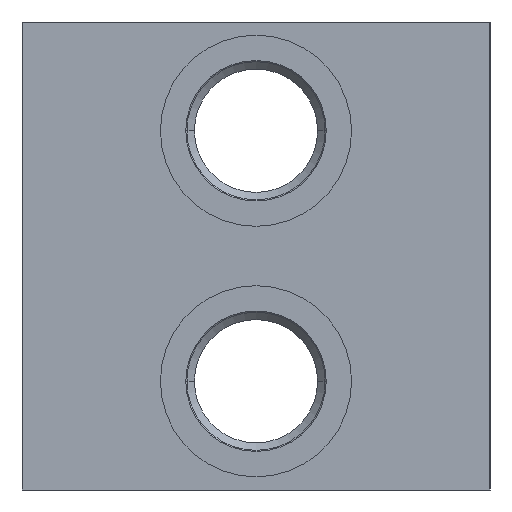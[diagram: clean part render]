
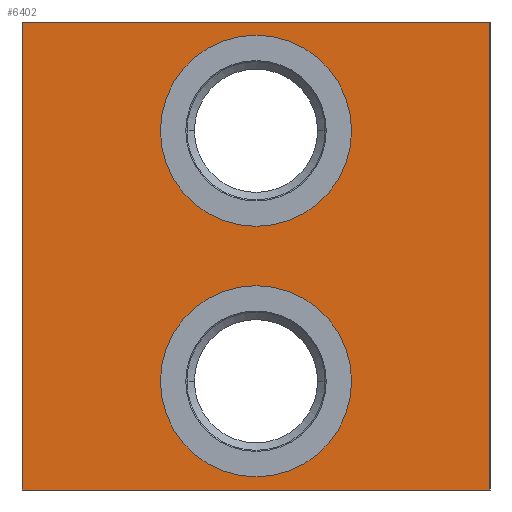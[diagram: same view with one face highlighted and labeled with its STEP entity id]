
A CAD part, left-side view. The second image highlights one B-rep face of the part: STEP entity #6402.
In plain terms, the highlighted planar face has unit normal (-1, 0, 0).
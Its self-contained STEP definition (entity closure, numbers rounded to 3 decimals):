
#30=DIRECTION('',(0.,-1.,0.));
#31=VECTOR('',#30,71.);
#32=CARTESIAN_POINT('',(0.,71.,0.));
#33=LINE('',#32,#31);
#211=DIRECTION('',(0.,0.,-1.));
#212=VECTOR('',#211,71.);
#213=CARTESIAN_POINT('',(0.,0.,0.));
#214=LINE('',#213,#212);
#1408=DIRECTION('',(0.,0.,-1.));
#1409=VECTOR('',#1408,71.);
#1410=CARTESIAN_POINT('',(0.,71.,0.));
#1411=LINE('',#1410,#1409);
#1415=CARTESIAN_POINT('',(0.,35.5,-54.5));
#1416=DIRECTION('',(1.,0.,0.));
#1417=DIRECTION('',(0.,-1.,0.));
#1418=AXIS2_PLACEMENT_3D('',#1415,#1416,#1417);
#1423=CARTESIAN_POINT('',(0.,35.5,-54.5));
#1424=DIRECTION('',(1.,0.,0.));
#1425=DIRECTION('',(0.,1.,0.));
#1426=AXIS2_PLACEMENT_3D('',#1423,#1424,#1425);
#1431=CARTESIAN_POINT('',(0.,35.5,-16.5));
#1432=DIRECTION('',(1.,0.,0.));
#1433=DIRECTION('',(0.,-1.,0.));
#1434=AXIS2_PLACEMENT_3D('',#1431,#1432,#1433);
#1439=CARTESIAN_POINT('',(0.,35.5,-16.5));
#1440=DIRECTION('',(1.,0.,0.));
#1441=DIRECTION('',(0.,1.,0.));
#1442=AXIS2_PLACEMENT_3D('',#1439,#1440,#1441);
#1468=DIRECTION('',(0.,-1.,0.));
#1469=VECTOR('',#1468,71.);
#1470=CARTESIAN_POINT('',(0.,71.,-71.));
#1471=LINE('',#1470,#1469);
#5341=CARTESIAN_POINT('',(0.,0.,0.));
#5343=VERTEX_POINT('',#5341);
#5347=CARTESIAN_POINT('',(0.,71.,0.));
#5348=VERTEX_POINT('',#5347);
#5349=CARTESIAN_POINT('',(0.,0.,-71.));
#5351=VERTEX_POINT('',#5349);
#5355=CARTESIAN_POINT('',(0.,71.,-71.));
#5356=VERTEX_POINT('',#5355);
#5385=CARTESIAN_POINT('',(0.,21.,-54.5));
#5386=CARTESIAN_POINT('',(0.,50.,-54.5));
#5387=VERTEX_POINT('',#5385);
#5388=VERTEX_POINT('',#5386);
#5401=CARTESIAN_POINT('',(0.,21.,-16.5));
#5402=CARTESIAN_POINT('',(0.,50.,-16.5));
#5403=VERTEX_POINT('',#5401);
#5404=VERTEX_POINT('',#5402);
#6378=CARTESIAN_POINT('',(0.,71.,0.));
#6379=DIRECTION('',(-1.,0.,0.));
#6380=DIRECTION('',(0.,-1.,0.));
#6381=AXIS2_PLACEMENT_3D('',#6378,#6379,#6380);
#6382=PLANE('',#6381);
#6383=ORIENTED_EDGE('',*,*,#5986,.T.);
#6384=ORIENTED_EDGE('',*,*,#6072,.T.);
#6386=ORIENTED_EDGE('',*,*,#6385,.F.);
#6387=ORIENTED_EDGE('',*,*,#6159,.F.);
#6388=EDGE_LOOP('',(#6383,#6384,#6386,#6387));
#6389=FACE_OUTER_BOUND('',#6388,.F.);
#6391=ORIENTED_EDGE('',*,*,#6390,.F.);
#6393=ORIENTED_EDGE('',*,*,#6392,.F.);
#6394=EDGE_LOOP('',(#6391,#6393));
#6395=FACE_BOUND('',#6394,.F.);
#6397=ORIENTED_EDGE('',*,*,#6396,.F.);
#6399=ORIENTED_EDGE('',*,*,#6398,.F.);
#6400=EDGE_LOOP('',(#6397,#6399));
#6401=FACE_BOUND('',#6400,.F.);
#1419=CIRCLE('',#1418,14.5);
#1427=CIRCLE('',#1426,14.5);
#1435=CIRCLE('',#1434,14.5);
#1443=CIRCLE('',#1442,14.5);
#5986=EDGE_CURVE('',#5348,#5343,#33,.T.);
#6072=EDGE_CURVE('',#5343,#5351,#214,.T.);
#6159=EDGE_CURVE('',#5348,#5356,#1411,.T.);
#6385=EDGE_CURVE('',#5356,#5351,#1471,.T.);
#6390=EDGE_CURVE('',#5387,#5388,#1419,.T.);
#6392=EDGE_CURVE('',#5388,#5387,#1427,.T.);
#6396=EDGE_CURVE('',#5403,#5404,#1435,.T.);
#6398=EDGE_CURVE('',#5404,#5403,#1443,.T.);
#6402=ADVANCED_FACE('',(#6389,#6395,#6401),#6382,.T.);
